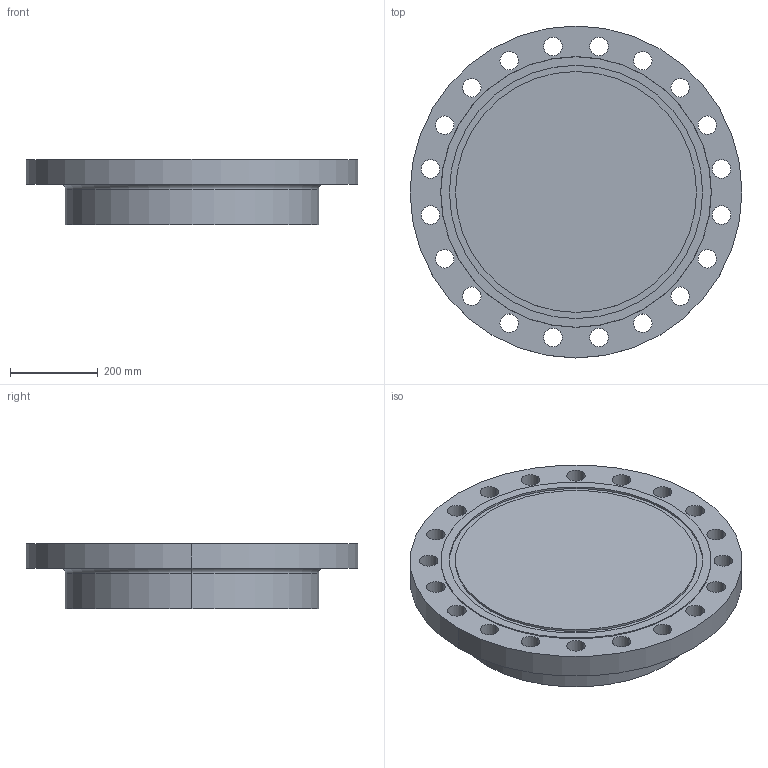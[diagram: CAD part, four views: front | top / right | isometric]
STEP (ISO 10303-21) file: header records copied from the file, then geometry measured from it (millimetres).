
FILE_DESCRIPTION (( 'STEP AP214' ), '1' );
FILE_NAME ('PN40 DN500 Type 21(i) - Type D Face.STEP', '2018-12-29T04:26:17', ( '' ), ( '' ), 'SwSTEP 2.0', 'SolidWorks 2019', '' );
FILE_SCHEMA (( 'AUTOMOTIVE_DESIGN' ));
Length unit declared in the file: millimetre
Products named in the file (1): PN40 DN500 Type 21(i) - Type D Face
Bounding box: 755 x 755 x 150 mm (x, y, z)
Volume: 47860564.4 mm3; surface area: 1295504.6 mm2
Topology: 1 solids, 1 shells, 58 faces, 154 edges, 102 vertices
Faces by surface type: cylinder 48, plane 6, torus 2, cone 2
Entity records: 1980 total; most frequent: DIRECTION 376, CARTESIAN_POINT 315, ORIENTED_EDGE 308, AXIS2_PLACEMENT_3D 163, EDGE_CURVE 154, CIRCLE 104, VERTEX_POINT 102, EDGE_LOOP 102
